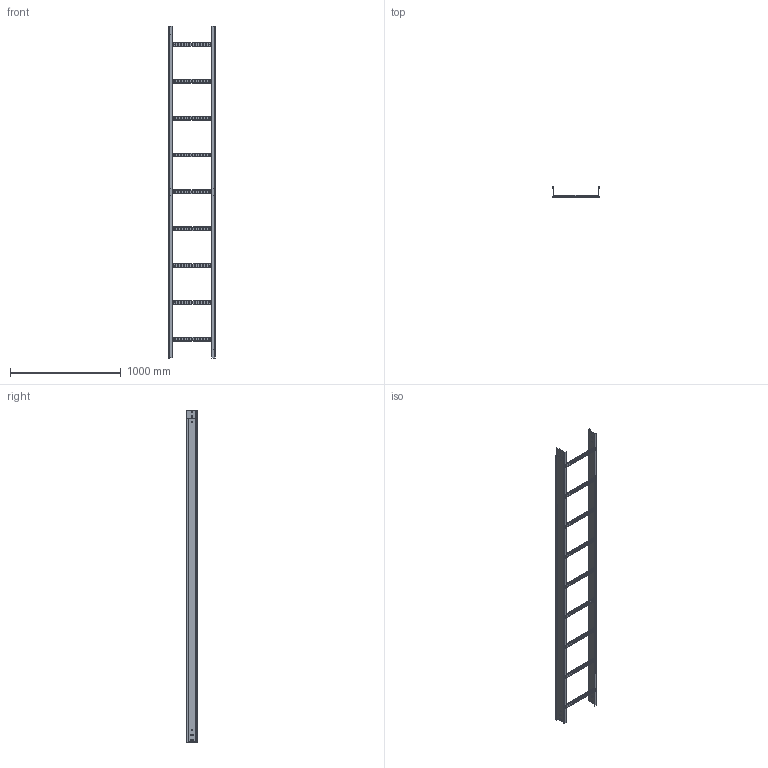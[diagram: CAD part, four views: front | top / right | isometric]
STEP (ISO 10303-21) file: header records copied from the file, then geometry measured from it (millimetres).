
FILE_DESCRIPTION (( 'STEP AP203' ), '1' );
FILE_NAME ('400X100x1,5.step', '2023-08-01T07:29:46', ( '' ), ( '' ), 'SwSTEP 2.0', 'SolidWorks 2022', '' );
FILE_SCHEMA (( 'CONFIG_CONTROL_DESIGN' ));
Length unit declared in the file: millimetre
Products named in the file (3): 400X100x1,5; Travesaño RAT35 FER GS_400; Montante FER GS_100x1,5
Assembly tree (11 placements, depth 2):
  400X100x1,5
    Montante FER GS_100x1,5  x2
    Travesaño RAT35 FER GS_400  x9
Bounding box: 432 x 101.5 x 3000 mm (x, y, z)
Volume: 358234.4 mm3; surface area: 2347696.3 mm2
Topology: 9 solids, 13 shells, 1314 faces, 3414 edges, 2160 vertices
Faces by surface type: plane 724, cylinder 442, torus 144, bspline 4
Entity records: 7905 total; most frequent: CARTESIAN_POINT 1642, DIRECTION 1247, ORIENTED_EDGE 1158, EDGE_CURVE 587, AXIS2_PLACEMENT_3D 449, VERTEX_POINT 380, VECTOR 349, LINE 349
